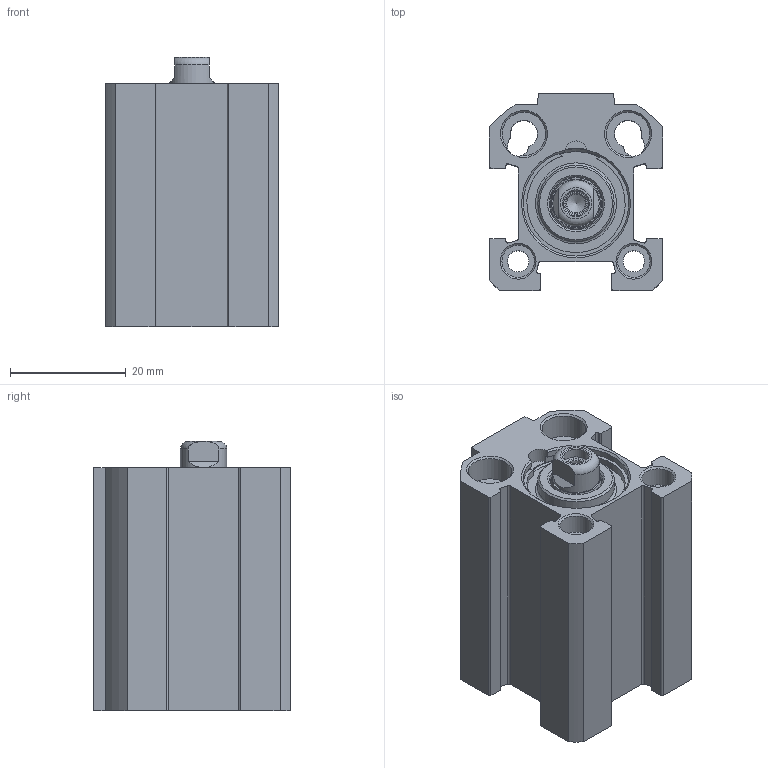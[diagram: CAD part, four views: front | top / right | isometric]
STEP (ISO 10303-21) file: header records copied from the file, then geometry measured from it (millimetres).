
FILE_DESCRIPTION(/* description */ ('Unknown'),/* implementation_level */ '2;1');
FILE_NAME(/* name */ 'FIN 16_10',/* time_stamp */ '2026-05-12T07:40:26+02:00',/* author */ ('Unknown'),/* organization */ ('Unknown'),/* preprocessor_version */ 'ST-DEVELOPER v18.102',/* originating_system */ 'Solid Edge',/* authorisation */ 'Unknown');
FILE_SCHEMA (('AUTOMOTIVE_DESIGN {1 0 10303 214 3 1 1}'));
Length unit declared in the file: millimetre
Products named in the file (5): FIN 16_10; Kolbenstange; Profilrohr; Kit_1; Kit_2
Assembly tree (4 placements, depth 2):
  FIN 16_10
    Kolbenstange
    Profilrohr
    Kit_1
    Kit_2
Bounding box: 30 x 34 x 46.5 mm (x, y, z)
Volume: 26652.5 mm3; surface area: 16728.3 mm2
Topology: 6 solids, 6 shells, 191 faces, 467 edges, 304 vertices
Faces by surface type: plane 78, cylinder 74, cone 30, torus 9
Full cylindrical faces by diameter (mm): 1.3 x2, 3.242 x2, 3.7 x2, 4.134 x4, 4.25 x1, 5.6 x4, 8 x1, 8.42 x1, 9.2 x1, 11.36 x1, 11.5 x1, 13.2 x1, 14 x1, 16 x2, 17.9 x4, 19 x2
Entity records: 6501 total; most frequent: CARTESIAN_POINT 1044, DIRECTION 956, ORIENTED_EDGE 776, AXIS2_PLACEMENT_3D 395, EDGE_CURVE 388, VERTEX_POINT 287, FACE_BOUND 285, EDGE_LOOP 284
